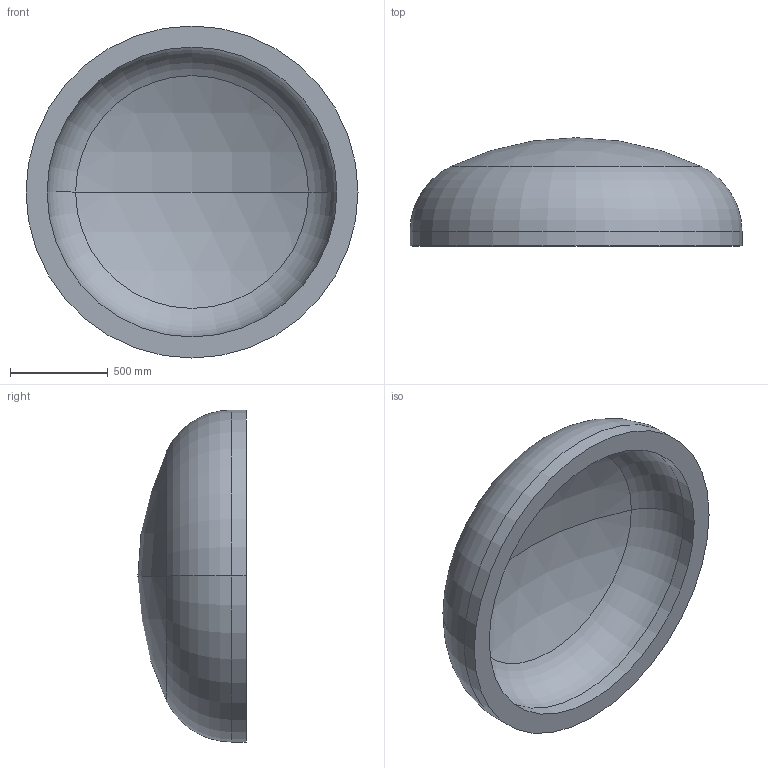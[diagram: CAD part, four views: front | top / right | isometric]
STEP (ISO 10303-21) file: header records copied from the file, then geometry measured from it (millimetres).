
FILE_DESCRIPTION (( 'STEP AP203' ), '1' );
FILE_NAME ('DIN 28013 Korbbogenform_-_Boden DIN 28013 - 1700 x 75 - I - s=108.step', '2016-07-01T12:09:53', ( '' ), ( '' ), 'SwSTEP 2.0', 'SolidWorks 2013', '' );
FILE_SCHEMA (( 'CONFIG_CONTROL_DESIGN' ));
Length unit declared in the file: millimetre
Products named in the file (1): DIN 28013 Korbbogenform_-_Boden DIN 28013 - 1700 x 75 - I - s=108
Bounding box: 1700 x 554.23 x 1700 mm (x, y, z)
Volume: 353239535.6 mm3; surface area: 7106053.2 mm2
Topology: 1 solids, 1 shells, 13 faces, 24 edges, 14 vertices
Faces by surface type: torus 4, cylinder 4, sphere 4, plane 1
Entity records: 407 total; most frequent: DIRECTION 72, CARTESIAN_POINT 52, ORIENTED_EDGE 48, AXIS2_PLACEMENT_3D 34, EDGE_CURVE 24, CIRCLE 20, VERTEX_POINT 14, EDGE_LOOP 14
